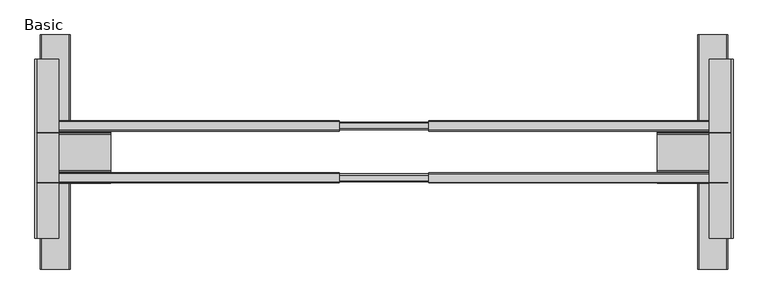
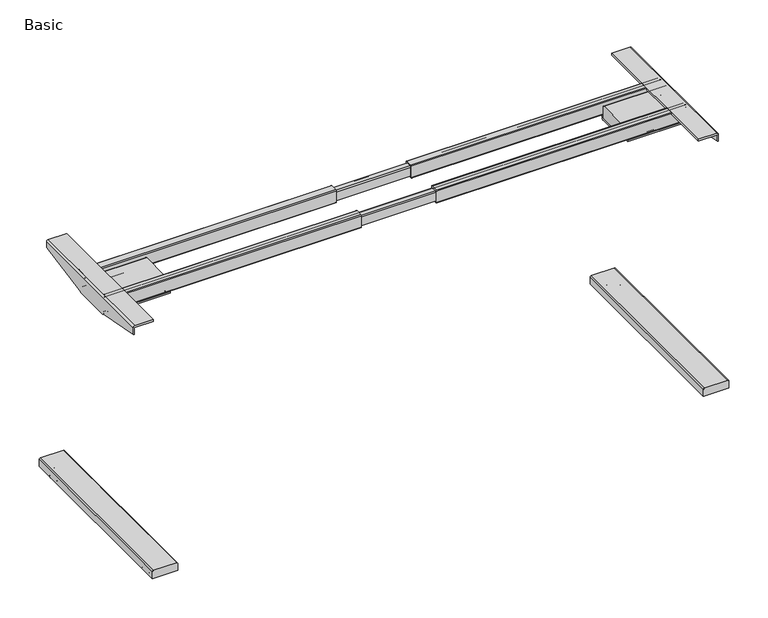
"""IFC4 building model written with IfcOpenShell, lengths in millimetres: furniture geometry, Steelcase Turnstone - Bivi - T Base : Basic."""

from ifc_helpers import new_model, si_unit, point, frame, frame_2d, origin, place, context, project, spatial, polyline, circle_curve, ellipse_curve, trimmed, segment, composite_curve, outline, extrude, source, transform, mapped, element, save
from ifc_brep_helpers import plane_surface, cylinder_surface, revolved_surface, advanced_brep


def basic_b299681c(model_context):
    return source(origin(), model_context, "Body", "SolidModel", [
        advanced_brep(
        [(649.4697971, 171.9471628, 0.0), (649.4697971, 111.031484, 0.0), (649.4697971, 141.4893234, 0.0), (649.4697971, 173.9813657, 2.034203), (649.4697971, 108.997281, 2.034203), (649.4697971, 173.9813657, 5.0424709), (649.4697971, 108.997281, 5.0424709), (649.4697971, 171.9620755, 7.0617612), (649.4697971, 111.0165712, 7.0617612), (649.4697971, 149.0390808, 9.288914), (649.4697971, 133.9395659, 9.288914), (649.4697971, 141.4893234, 9.288914)],
        [
            (0, 1, circle_curve(frame((649.4697971, 141.4893234, 0.0), z_axis=(0.0, 0.0, -1.0), x_axis=(0.0, -1.0, 0.0)), 30.4578394)),
            (1, 2),
            (2, 0),
            (1, 0, circle_curve(frame((649.4697971, 141.4893234, 0.0), z_axis=(0.0, 0.0, -1.0), x_axis=(0.0, -1.0, 0.0)), 30.4578394)),
            (3, 4, circle_curve(frame((649.4697971, 141.4893234, 2.034203), z_axis=(0.0, 0.0, -1.0), x_axis=(0.0, -1.0, 0.0)), 32.4920424)),
            (4, 1, circle_curve(frame((649.4697971, 111.031484, 2.034203), z_axis=(1.0, 0.0, 0.0), x_axis=(0.0, 1.0, 0.0)), 2.034203)),
            (0, 3, circle_curve(frame((649.4697971, 171.9471628, 2.034203), z_axis=(1.0, 0.0, 0.0), x_axis=(0.0, -1.0, 0.0)), 2.034203)),
            (4, 3, circle_curve(frame((649.4697971, 141.4893234, 2.034203), z_axis=(0.0, 0.0, -1.0), x_axis=(0.0, -1.0, 0.0)), 32.4920424)),
            (5, 6, circle_curve(frame((649.4697971, 141.4893234, 5.0424709), z_axis=(0.0, 0.0, -1.0), x_axis=(0.0, -1.0, 0.0)), 32.4920424)),
            (6, 4),
            (3, 5),
            (6, 5, circle_curve(frame((649.4697971, 141.4893234, 5.0424709), z_axis=(0.0, 0.0, -1.0), x_axis=(0.0, -1.0, 0.0)), 32.4920424)),
            (7, 8, circle_curve(frame((649.4697971, 141.4893234, 7.0617612), z_axis=(0.0, 0.0, -1.0), x_axis=(0.0, -1.0, 0.0)), 30.4727521)),
            (8, 6, circle_curve(frame((649.4697971, 111.0165712, 5.0424709), z_axis=(1.0, 0.0, 0.0), x_axis=(0.0, 1.0, 0.0)), 2.0192902)),
            (5, 7, circle_curve(frame((649.4697971, 171.9620755, 5.0424709), z_axis=(1.0, 0.0, 0.0), x_axis=(0.0, -1.0, 0.0)), 2.0192902)),
            (8, 7, circle_curve(frame((649.4697971, 141.4893234, 7.0617612), z_axis=(0.0, 0.0, -1.0), x_axis=(0.0, -1.0, 0.0)), 30.4727521)),
            (9, 10, circle_curve(frame((649.4697971, 141.4893234, 9.288914), z_axis=(0.0, 0.0, -1.0), x_axis=(0.0, -1.0, 0.0)), 7.5497574)),
            (10, 8),
            (7, 9),
            (10, 9, circle_curve(frame((649.4697971, 141.4893234, 9.288914), z_axis=(0.0, 0.0, -1.0), x_axis=(0.0, -1.0, 0.0)), 7.5497574)),
            (11, 10),
            (9, 11),
        ],
        [
            plane_surface(frame((649.4697971, 141.4893234, 0.0), z_axis=(0.0, 0.0, -1.0), x_axis=(0.0, -1.0, 0.0))),
            revolved_surface(trimmed(ellipse_curve(frame((649.4697971, 111.031484, 2.034203), z_axis=(-1.0, 0.0, 0.0), x_axis=(0.0, 1.0, 0.0)), 2.034203, 2.034203), [point((649.4697971, 111.031484, 0.0))], [point((649.4697971, 108.997281, 2.034203))], True, "CARTESIAN"), (649.4697971, 141.4893234, 13.4607192), (0.0, 0.0, 1.0)),
            cylinder_surface(frame((649.4697971, 141.4893234, 13.4607192), z_axis=(0.0, 0.0, 1.0), x_axis=(0.0, -1.0, 0.0)), 32.4920424),
            revolved_surface(trimmed(ellipse_curve(frame((649.4697971, 111.0165712, 5.0424709), z_axis=(-1.0, 0.0, 0.0), x_axis=(0.0, 1.0, 0.0)), 2.0192902, 2.0192902), [point((649.4697971, 108.997281, 5.0424709))], [point((649.4697971, 111.0165712, 7.0617612))], True, "CARTESIAN"), (649.4697971, 141.4893234, 13.4607192), (0.0, 0.0, 1.0)),
            revolved_surface(polyline([(649.4697971, 111.0165712, 7.0617612), (649.4697971, 133.9395659, 9.288914)]), (649.4697971, 141.4893234, 13.4607192), (0.0, 0.0, 1.0)),
            plane_surface(frame((649.4697971, 141.4893234, 9.288914), z_axis=(0.0, 0.0, 1.0), x_axis=(0.0, -1.0, 0.0))),
        ],
        [
            (0, [[1, 2, 3]]),
            (0, [[4, -3, -2]]),
            (1, [[5, 6, -1, 7]]),
            (1, [[8, -7, -4, -6]]),
            (2, [[9, 10, -5, 11]]),
            (2, [[12, -11, -8, -10]]),
            (3, [[13, 14, -9, 15]]),
            (3, [[16, -15, -12, -14]]),
            (4, [[17, 18, -13, 19]]),
            (4, [[20, -19, -16, -18]]),
            (5, [[21, -17, 22]]),
            (5, [[-22, -20, -21]]),
        ],
    ),
        advanced_brep(
        [(-993.9102029, -367.0453334, 0.0), (-993.9102029, -306.1296546, 0.0), (-993.9102029, -336.587494, 0.0), (-993.9102029, -369.0795363, 2.034203), (-993.9102029, -304.0954516, 2.034203), (-993.9102029, -369.0795363, 5.0424709), (-993.9102029, -304.0954516, 5.0424709), (-993.9102029, -367.0602461, 7.0617612), (-993.9102029, -306.1147418, 7.0617612), (-993.9102029, -344.1372514, 9.288914), (-993.9102029, -329.0377365, 9.288914), (-993.9102029, -336.587494, 9.288914)],
        [
            (0, 1, circle_curve(frame((-993.9102029, -336.587494, 0.0), z_axis=(0.0, 0.0, -1.0), x_axis=(0.0, 1.0, 0.0)), 30.4578394)),
            (1, 2),
            (2, 0),
            (1, 0, circle_curve(frame((-993.9102029, -336.587494, 0.0), z_axis=(0.0, 0.0, -1.0), x_axis=(0.0, 1.0, 0.0)), 30.4578394)),
            (3, 4, circle_curve(frame((-993.9102029, -336.587494, 2.034203), z_axis=(0.0, 0.0, -1.0), x_axis=(0.0, 1.0, 0.0)), 32.4920424)),
            (4, 1, circle_curve(frame((-993.9102029, -306.1296546, 2.034203), z_axis=(-1.0, 0.0, 0.0), x_axis=(0.0, 1.0, 0.0)), 2.034203)),
            (0, 3, circle_curve(frame((-993.9102029, -367.0453334, 2.034203), z_axis=(-1.0, 0.0, 0.0), x_axis=(0.0, -1.0, 0.0)), 2.034203)),
            (4, 3, circle_curve(frame((-993.9102029, -336.587494, 2.034203), z_axis=(0.0, 0.0, -1.0), x_axis=(0.0, 1.0, 0.0)), 32.4920424)),
            (5, 6, circle_curve(frame((-993.9102029, -336.587494, 5.0424709), z_axis=(0.0, 0.0, -1.0), x_axis=(0.0, 1.0, 0.0)), 32.4920424)),
            (6, 4),
            (3, 5),
            (6, 5, circle_curve(frame((-993.9102029, -336.587494, 5.0424709), z_axis=(0.0, 0.0, -1.0), x_axis=(0.0, 1.0, 0.0)), 32.4920424)),
            (7, 8, circle_curve(frame((-993.9102029, -336.587494, 7.0617612), z_axis=(0.0, 0.0, -1.0), x_axis=(0.0, 1.0, 0.0)), 30.4727521)),
            (8, 6, circle_curve(frame((-993.9102029, -306.1147418, 5.0424709), z_axis=(-1.0, 0.0, 0.0), x_axis=(0.0, 1.0, 0.0)), 2.0192902)),
            (5, 7, circle_curve(frame((-993.9102029, -367.0602461, 5.0424709), z_axis=(-1.0, 0.0, 0.0), x_axis=(0.0, -1.0, 0.0)), 2.0192902)),
            (8, 7, circle_curve(frame((-993.9102029, -336.587494, 7.0617612), z_axis=(0.0, 0.0, -1.0), x_axis=(0.0, 1.0, 0.0)), 30.4727521)),
            (9, 10, circle_curve(frame((-993.9102029, -336.587494, 9.288914), z_axis=(0.0, 0.0, -1.0), x_axis=(0.0, 1.0, 0.0)), 7.5497574)),
            (10, 8),
            (7, 9),
            (10, 9, circle_curve(frame((-993.9102029, -336.587494, 9.288914), z_axis=(0.0, 0.0, -1.0), x_axis=(0.0, 1.0, 0.0)), 7.5497574)),
            (11, 10),
            (9, 11),
        ],
        [
            plane_surface(frame((-993.9102029, -336.587494, 0.0), z_axis=(0.0, 0.0, -1.0), x_axis=(0.0, 1.0, 0.0))),
            revolved_surface(trimmed(ellipse_curve(frame((-993.9102029, -306.1296546, 2.034203), z_axis=(1.0, 0.0, 0.0), x_axis=(0.0, 1.0, 0.0)), 2.034203, 2.034203), [point((-993.9102029, -306.1296546, 0.0))], [point((-993.9102029, -304.0954516, 2.034203))], True, "CARTESIAN"), (-993.9102029, -336.587494, 13.4607192), (0.0, 0.0, 1.0)),
            cylinder_surface(frame((-993.9102029, -336.587494, 13.4607192), z_axis=(0.0, 0.0, 1.0), x_axis=(0.0, 1.0, 0.0)), 32.4920424),
            revolved_surface(trimmed(ellipse_curve(frame((-993.9102029, -306.1147418, 5.0424709), z_axis=(1.0, 0.0, 0.0), x_axis=(0.0, 1.0, 0.0)), 2.0192902, 2.0192902), [point((-993.9102029, -304.0954516, 5.0424709))], [point((-993.9102029, -306.1147418, 7.0617612))], True, "CARTESIAN"), (-993.9102029, -336.587494, 13.4607192), (0.0, 0.0, 1.0)),
            revolved_surface(polyline([(-993.9102029, -306.1147418, 7.0617612), (-993.9102029, -329.0377365, 9.288914)]), (-993.9102029, -336.587494, 13.4607192), (0.0, 0.0, 1.0)),
            plane_surface(frame((-993.9102029, -336.587494, 9.288914), z_axis=(0.0, 0.0, 1.0), x_axis=(0.0, 1.0, 0.0))),
        ],
        [
            (0, [[1, 2, 3]]),
            (0, [[4, -3, -2]]),
            (1, [[5, 6, -1, 7]]),
            (1, [[8, -7, -4, -6]]),
            (2, [[9, 10, -5, 11]]),
            (2, [[12, -11, -8, -10]]),
            (3, [[13, 14, -9, 15]]),
            (3, [[16, -15, -12, -14]]),
            (4, [[17, 18, -13, 19]]),
            (4, [[20, -19, -16, -18]]),
            (5, [[21, -17, 22]]),
            (5, [[-22, -20, -21]]),
        ],
    ),
        advanced_brep(
        [(696.7274973, -158.2325705, 706.7459466), (699.2411807, -158.2325705, 706.7459466), (699.2411807, -313.1690409, 735.4690634), (696.7274973, -313.1690409, 735.4690634), (696.7274973, -154.5901123, 703.1034885), (699.2411807, -154.5901123, 703.1034885), (696.7274973, -37.2242924, 706.7459466), (699.2411807, -37.2242924, 706.7459466), (699.2411807, -40.8667505, 703.1034885), (696.7274973, -40.8667505, 703.1034885), (696.7274973, 133.8680014, 738.4641336), (699.2411807, 133.8680014, 738.4641336), (699.2411807, -313.1690409, 757.1424174), (693.9835981, -313.1690409, 762.4), (639.5744146, -313.1690409, 762.4), (639.5744146, -313.1690409, 756.3136941), (693.9835981, -313.1690409, 756.3136941), (696.7274973, -313.1690409, 753.5697948), (696.7274973, 133.8680014, 753.5697948), (693.9835981, 133.8680014, 756.3136941), (639.5744146, 133.8680014, 756.3136941), (639.5744146, 133.8680014, 762.4), (693.9835981, 133.8680014, 762.4), (699.2411807, 133.8680014, 757.1424174)],
        [
            (0, 1),
            (1, 2),
            (2, 3),
            (3, 0),
            (0, 4),
            (4, 5),
            (5, 1),
            (6, 7),
            (7, 8),
            (8, 9),
            (9, 6),
            (6, 10),
            (10, 11),
            (11, 7),
            (12, 13, circle_curve(frame((693.9835981, -313.1690409, 757.1424174), z_axis=(0.0, -1.0, 0.0), x_axis=(-1.0, 0.0, 0.0)), 5.2575826)),
            (13, 14),
            (14, 15),
            (15, 16),
            (16, 17, circle_curve(frame((693.9835981, -313.1690409, 753.5697948), z_axis=(0.0, 1.0, 0.0), x_axis=(-1.0, 0.0, 0.0)), 2.7438992)),
            (17, 3),
            (2, 12),
            (18, 19, circle_curve(frame((693.9835981, 133.8680014, 753.5697948), z_axis=(0.0, -1.0, 0.0), x_axis=(-1.0, 0.0, 0.0)), 2.7438992)),
            (19, 20),
            (20, 21),
            (21, 22),
            (22, 23, circle_curve(frame((693.9835981, 133.8680014, 757.1424174), z_axis=(0.0, 1.0, 0.0), x_axis=(-1.0, 0.0, 0.0)), 5.2575826)),
            (23, 11),
            (10, 18),
            (17, 18),
            (9, 4),
            (16, 19),
            (15, 20),
            (14, 21),
            (13, 22),
            (12, 23),
            (5, 8),
        ],
        [
            plane_surface(frame((907.5476074, -158.2325705, 706.7459466), z_axis=(0.0, -0.18228055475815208, -0.983246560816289), x_axis=(-1.0, 0.0, 0.0))),
            plane_surface(frame((907.5476074, -152.8866238, 701.4), z_axis=(0.0, -0.7071067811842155, -0.7071067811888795), x_axis=(-1.0, 0.0, 0.0))),
            plane_surface(frame((907.5476074, -37.2242924, 706.7459466), z_axis=(0.0, 0.707106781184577, -0.7071067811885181), x_axis=(-1.0, 0.0, 0.0))),
            plane_surface(frame((907.5476074, 190.3320215, 748.9317958), z_axis=(0.0, 0.18228055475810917, -0.983246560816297), x_axis=(-1.0, 0.0, 0.0))),
            plane_surface(frame((699.2411807, -313.1690409, 703.1034885), z_axis=(0.0, -1.0, 0.0), x_axis=(1.0, 0.0, 0.0))),
            plane_surface(frame((699.2411807, 133.8680014, 703.1034885), z_axis=(0.0, 1.0, 0.0), x_axis=(-1.0, 0.0, 0.0))),
            plane_surface(frame((696.7274973, -313.1690409, 753.5697948), z_axis=(-1.0, 0.0, 0.0), x_axis=(0.0, 1.0, 0.0))),
            revolved_surface(polyline([(691.2396989, 133.8680014, 753.5697948), (691.2396989, -313.1690409, 753.5697948)]), (693.9835981, 133.8680014, 753.5697948), (0.0, 1.0, 0.0)),
            plane_surface(frame((639.5744146, -313.1690409, 756.3136941), z_axis=(1.5772561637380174e-12, 0.0, -1.0), x_axis=(0.0, 1.0, 0.0))),
            plane_surface(frame((639.5744146, -313.1690409, 762.4), z_axis=(-1.0, 0.0, 0.0), x_axis=(0.0, 1.0, 0.0))),
            plane_surface(frame((693.9835981, -313.1690409, 762.4), z_axis=(0.0, 0.0, 1.0), x_axis=(0.0, 1.0, 0.0))),
            cylinder_surface(frame((693.9835981, 133.8680014, 757.1424174), z_axis=(0.0, -1.0, 0.0), x_axis=(-1.0, 0.0, 0.0)), 5.2575826),
            plane_surface(frame((699.2411807, -313.1690409, 703.1034885), z_axis=(1.0, 0.0, 0.0), x_axis=(0.0, 1.0, 0.0))),
            plane_surface(frame((696.7274973, -313.1690409, 703.1034885), z_axis=(0.0, 0.0, -1.0), x_axis=(0.0, 1.0, 0.0))),
        ],
        [
            (0, [[1, 2, 3, 4]]),
            (1, [[-1, 5, 6, 7]]),
            (2, [[8, 9, 10, 11]]),
            (3, [[-8, 12, 13, 14]]),
            (4, [[15, 16, 17, 18, 19, 20, -3, 21]]),
            (5, [[22, 23, 24, 25, 26, 27, -13, 28]]),
            (6, [[29, -28, -12, -11, 30, -5, -4, -20]]),
            (7, [[-19, 31, -22, -29]]),
            (8, [[-18, 32, -23, -31]]),
            (9, [[-17, 33, -24, -32]]),
            (10, [[-16, 34, -25, -33]]),
            (11, [[-15, 35, -26, -34]]),
            (12, [[-35, -21, -2, -7, 36, -9, -14, -27]]),
            (13, [[-36, -6, -30, -10]]),
        ],
    ),
        advanced_brep(
        [(-1041.1231206, -313.1690409, 753.5697948), (-1038.3792213, -313.1690409, 756.3136941), (-983.7419689, -313.1690409, 756.3136941), (-983.7419689, -313.1690409, 762.4), (-1038.1645206, -313.1690409, 762.4), (-1043.4221032, -313.1690409, 757.1424174), (-1043.4221032, -313.1690409, 735.4690634), (-1041.1231206, -313.1690409, 735.4690634), (-1043.4221032, 133.8680014, 757.1424174), (-1038.1645206, 133.8680014, 762.4), (-983.7419689, 133.8680014, 762.4), (-983.7419689, 133.8680014, 756.3136941), (-1038.3792213, 133.8680014, 756.3136941), (-1041.1231206, 133.8680014, 753.5697948), (-1041.1231206, 133.8680014, 738.4641336), (-1043.4221032, 133.8680014, 738.4641336), (-1041.1231206, -158.2325705, 706.7459466), (-1041.1231206, -154.5901123, 703.1034885), (-1041.1231206, -40.8667505, 703.1034885), (-1041.1231206, -37.2242924, 706.7459466), (-1043.4221032, -37.2242924, 706.7459466), (-1043.4221032, -40.8667505, 703.1034885), (-1043.4221032, -154.5901123, 703.1034885), (-1043.4221032, -158.2325705, 706.7459466)],
        [
            (0, 1, circle_curve(frame((-1038.3792213, -313.1690409, 753.5697948), z_axis=(0.0, 1.0, 0.0), x_axis=(1.0, 0.0, 0.0)), 2.7438992)),
            (1, 2),
            (2, 3),
            (3, 4),
            (4, 5, circle_curve(frame((-1038.1645206, -313.1690409, 757.1424174), z_axis=(0.0, -1.0, 0.0), x_axis=(1.0, 0.0, 0.0)), 5.2575826)),
            (5, 6),
            (6, 7),
            (7, 0),
            (8, 9, circle_curve(frame((-1038.1645206, 133.8680014, 757.1424174), z_axis=(0.0, 1.0, 0.0), x_axis=(1.0, 0.0, 0.0)), 5.2575826)),
            (9, 10),
            (10, 11),
            (11, 12),
            (12, 13, circle_curve(frame((-1038.3792213, 133.8680014, 753.5697948), z_axis=(0.0, -1.0, 0.0), x_axis=(1.0, 0.0, 0.0)), 2.7438992)),
            (13, 14),
            (14, 15),
            (15, 8),
            (13, 0),
            (7, 16),
            (16, 17),
            (17, 18),
            (18, 19),
            (19, 14),
            (12, 1),
            (11, 2),
            (10, 3),
            (9, 4),
            (8, 5),
            (15, 20),
            (20, 21),
            (21, 22),
            (22, 23),
            (23, 6),
            (17, 22),
            (21, 18),
            (23, 16),
            (20, 19),
        ],
        [
            plane_surface(frame((-1041.1231206, -313.1690409, 753.5697948), z_axis=(0.0, -1.0, 0.0), x_axis=(0.0, 0.0, 1.0))),
            plane_surface(frame((-1041.1231206, 133.8680014, 753.5697948), z_axis=(0.0, 1.0, 0.0), x_axis=(0.0, 0.0, -1.0))),
            plane_surface(frame((-1041.1231206, -313.1690409, 703.1034885), z_axis=(1.0, 0.0, 0.0), x_axis=(0.0, 1.0, 0.0))),
            revolved_surface(polyline([(-1035.6353221, 133.8680014, 753.5697948), (-1035.6353221, -313.1690409, 753.5697948)]), (-1038.3792213, 133.8680014, 753.5697948), (0.0, 1.0, 0.0)),
            plane_surface(frame((-1038.3792213, -313.1690409, 756.3136941), z_axis=(0.0, 0.0, -1.0), x_axis=(0.0, 1.0, 0.0))),
            plane_surface(frame((-983.7419689, -313.1690409, 756.3136941), z_axis=(1.0, 0.0, 0.0), x_axis=(0.0, 1.0, 0.0))),
            plane_surface(frame((-983.7419689, -313.1690409, 762.4), z_axis=(0.0, 0.0, 1.0), x_axis=(0.0, 1.0, 0.0))),
            cylinder_surface(frame((-1038.1645206, 133.8680014, 757.1424174), z_axis=(0.0, -1.0, 0.0), x_axis=(1.0, 0.0, 0.0)), 5.2575826),
            plane_surface(frame((-1043.4221032, -313.1690409, 757.1424174), z_axis=(-1.0, 0.0, 0.0), x_axis=(0.0, 1.0, 0.0))),
            plane_surface(frame((-1043.4221032, -313.1690409, 703.1034885), z_axis=(0.0, 0.0, -1.0), x_axis=(0.0, 1.0, 0.0))),
            plane_surface(frame((-1129.545801, -385.7888843, 748.9317958), z_axis=(0.0, -0.18228055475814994, -0.9832465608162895), x_axis=(1.0, 0.0, 0.0))),
            plane_surface(frame((-1129.545801, -158.2325705, 706.7459466), z_axis=(0.0, -0.7071067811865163, -0.7071067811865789), x_axis=(1.0, 0.0, 0.0))),
            plane_surface(frame((-1129.545801, -42.570239, 701.4), z_axis=(0.0, 0.7071067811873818, -0.7071067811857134), x_axis=(1.0, 0.0, 0.0))),
            plane_surface(frame((-1129.545801, -37.2242924, 706.7459466), z_axis=(0.0, 0.1822805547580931, -0.9832465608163), x_axis=(1.0, 0.0, 0.0))),
        ],
        [
            (0, [[1, 2, 3, 4, 5, 6, 7, 8]]),
            (1, [[9, 10, 11, 12, 13, 14, 15, 16]]),
            (2, [[17, -8, 18, 19, 20, 21, 22, -14]]),
            (3, [[-1, -17, -13, 23]]),
            (4, [[-2, -23, -12, 24]]),
            (5, [[-3, -24, -11, 25]]),
            (6, [[-4, -25, -10, 26]]),
            (7, [[-5, -26, -9, 27]]),
            (8, [[-27, -16, 28, 29, 30, 31, 32, -6]]),
            (9, [[-20, 33, -30, 34]]),
            (10, [[35, -18, -7, -32]]),
            (11, [[-35, -31, -33, -19]]),
            (12, [[36, -21, -34, -29]]),
            (13, [[-36, -28, -15, -22]]),
        ],
    ),
        extrude(outline(composite_curve([segment(polyline([(7.9650038, 611.0637802), (7.9650038, 686.1381849), (30.0204767, 686.1381849)]), True, "CONTINUOUS"), segment(trimmed(circle_curve(frame_2d((30.0204767, 683.1575777)), 2.9806072), [point((30.0204767, 686.1381849))], [point((33.0010839, 683.1575777))], False, "CARTESIAN"), True, "CONTINUOUS"), segment(polyline([(33.0010839, 683.1575777), (33.0010839, 614.2342027)]), True, "CONTINUOUS"), segment(trimmed(circle_curve(frame_2d((29.8306613, 614.2342027)), 3.1704226), [point((33.0010839, 614.2342027))], [point((29.8306613, 611.0637802))], False, "CARTESIAN"), True, "CONTINUOUS"), segment(polyline([(29.8306613, 611.0637802), (7.9650038, 611.0637802)]), True, "CONTINUOUS")], self_intersect=False)), frame((0.0, -389.6490853, 0.0), z_axis=(0.0, 1.0, 0.0), x_axis=(0.0, 0.0, 1.0)), (0.0, 0.0, 1.0), 584.2),
        extrude(outline(composite_curve([segment(polyline([(7.9650038, -955.504186), (29.8306613, -955.504186)]), True, "CONTINUOUS"), segment(trimmed(circle_curve(frame_2d((29.8306613, -958.6746086)), 3.1704226), [point((29.8306613, -955.504186))], [point((33.0010839, -958.6746086))], False, "CARTESIAN"), True, "CONTINUOUS"), segment(polyline([(33.0010839, -958.6746086), (33.0010839, -1027.5979836)]), True, "CONTINUOUS"), segment(trimmed(circle_curve(frame_2d((30.0204767, -1027.5979836)), 2.9806072), [point((33.0010839, -1027.5979836))], [point((30.0204767, -1030.5785908))], False, "CARTESIAN"), True, "CONTINUOUS"), segment(polyline([(30.0204767, -1030.5785908), (7.9650038, -1030.5785908), (7.9650038, -955.504186)]), True, "CONTINUOUS")], self_intersect=False)), frame((0.0, -389.6490853, 0.0), z_axis=(0.0, 1.0, 0.0), x_axis=(0.0, 0.0, 1.0)), (0.0, 0.0, 1.0), 584.2),
        extrude(outline(composite_curve([segment(trimmed(circle_curve(frame_2d((-22.6846088, 724.4247064)), 2.54), [point((-20.1446088, 724.4247064))], [point((-22.6846088, 721.8847064))], False, "CARTESIAN"), True, "CONTINUOUS"), segment(polyline([(-22.6846088, 721.8847064), (-43.0735084, 721.8847064)]), True, "CONTINUOUS"), segment(trimmed(circle_curve(frame_2d((-43.0735084, 724.3558068)), 2.4711004), [point((-43.0735084, 721.8847064))], [point((-45.5446088, 724.3558068))], False, "CARTESIAN"), True, "CONTINUOUS"), segment(polyline([(-45.5446088, 724.3558068), (-45.5446088, 759.897389)]), True, "CONTINUOUS"), segment(trimmed(circle_curve(frame_2d((-43.0419978, 759.897389)), 2.502611), [point((-45.5446088, 759.897389))], [point((-43.0419978, 762.4))], False, "CARTESIAN"), True, "CONTINUOUS"), segment(polyline([(-43.0419978, 762.4), (-22.5036523, 762.4)]), True, "CONTINUOUS"), segment(trimmed(circle_curve(frame_2d((-22.5036523, 760.0409564)), 2.3590436), [point((-22.5036523, 762.4))], [point((-20.1446088, 760.0409564))], False, "CARTESIAN"), True, "CONTINUOUS"), segment(polyline([(-20.1446088, 760.0409564), (-20.1446088, 724.4247064)]), True, "CONTINUOUS")], self_intersect=False)), frame((-60.4602029, 0.0, 0.0), z_axis=(1.0, 0.0, 0.0), x_axis=(0.0, 1.0, 0.0)), (0.0, 0.0, 1.0), 746.5983879),
        extrude(outline(composite_curve([segment(polyline([(-175.0303912, 724.4247064), (-175.0303912, 760.0409564)]), True, "CONTINUOUS"), segment(trimmed(circle_curve(frame_2d((-172.6713476, 760.0409564)), 2.3590436), [point((-175.0303912, 760.0409564))], [point((-172.6713476, 762.4))], False, "CARTESIAN"), True, "CONTINUOUS"), segment(polyline([(-172.6713476, 762.4), (-152.1330021, 762.4)]), True, "CONTINUOUS"), segment(trimmed(circle_curve(frame_2d((-152.1330021, 759.897389)), 2.502611), [point((-152.1330021, 762.4))], [point((-149.6303912, 759.897389))], False, "CARTESIAN"), True, "CONTINUOUS"), segment(polyline([(-149.6303912, 759.897389), (-149.6303912, 724.3558068)]), True, "CONTINUOUS"), segment(trimmed(circle_curve(frame_2d((-152.1014916, 724.3558068)), 2.4711004), [point((-149.6303912, 724.3558068))], [point((-152.1014916, 721.8847064))], False, "CARTESIAN"), True, "CONTINUOUS"), segment(polyline([(-152.1014916, 721.8847064), (-172.4903912, 721.8847064)]), True, "CONTINUOUS"), segment(trimmed(circle_curve(frame_2d((-172.4903912, 724.4247064)), 2.54), [point((-172.4903912, 721.8847064))], [point((-175.0303912, 724.4247064))], False, "CARTESIAN"), True, "CONTINUOUS")], self_intersect=False)), frame((-60.4602029, 0.0, 0.0), z_axis=(1.0, 0.0, 0.0), x_axis=(0.0, 1.0, 0.0)), (0.0, 0.0, 1.0), 746.5983879),
        extrude(outline(composite_curve([segment(polyline([(-41.1510404, 716.7696117), (-42.2051171, 711.022656)]), True, "CONTINUOUS"), segment(trimmed(circle_curve(frame_2d((-47.3092607, 711.9588315)), 5.1892877), [point((-42.2051171, 711.022656))], [point((-47.3092607, 706.7695438))], False, "CARTESIAN"), True, "CONTINUOUS"), segment(polyline([(-47.3092607, 706.7695438), (-148.1476021, 706.7695438)]), True, "CONTINUOUS"), segment(trimmed(circle_curve(frame_2d((-148.1476021, 711.9588315)), 5.1892877), [point((-148.1476021, 706.7695438))], [point((-153.2517457, 711.022656))], False, "CARTESIAN"), True, "CONTINUOUS"), segment(polyline([(-153.2517457, 711.022656), (-154.3058224, 716.7696117), (-175.3056356, 716.7696117), (-175.3056356, 721.8847064), (-154.8075486, 721.8847064)]), True, "CONTINUOUS"), segment(trimmed(circle_curve(frame_2d((-154.8075486, 716.3079909)), 5.5767155), [point((-154.8075486, 721.8847064))], [point((-149.3222025, 717.3133434))], False, "CARTESIAN"), True, "CONTINUOUS"), segment(polyline([(-149.3222025, 717.3133434), (-148.3061517, 711.7696262), (-47.7075617, 711.7696262), (-46.6915109, 717.3133434)]), True, "CONTINUOUS"), segment(trimmed(circle_curve(frame_2d((-41.2061648, 716.3079909)), 5.5767155), [point((-46.6915109, 717.3133434))], [point((-41.2061648, 721.8847064))], False, "CARTESIAN"), True, "CONTINUOUS"), segment(polyline([(-41.2061648, 721.8847064), (-20.3067633, 721.8847064), (-20.3067633, 716.7696117), (-41.1510404, 716.7696117)]), True, "CONTINUOUS")], self_intersect=False)), frame((509.3531648, 0.0, 0.0), z_axis=(1.0, 0.0, 0.0), x_axis=(0.0, 1.0, 0.0)), (0.0, 0.0, 1.0), 184.6304333),
        extrude(outline(composite_curve([segment(polyline([(-49.146017, 750.0927128), (-47.8070711, 711.7696262), (-147.8056669, 711.7696262), (-146.4667677, 750.0927082)]), True, "CONTINUOUS"), segment(trimmed(circle_curve(frame_2d((-142.6590908, 749.9596788)), 3.81), [point((-146.4667677, 750.0927082))], [point((-142.6590908, 753.7696788))], False, "CARTESIAN"), True, "CONTINUOUS"), segment(polyline([(-142.6590908, 753.7696788), (-52.9536937, 753.7696788)]), True, "CONTINUOUS"), segment(trimmed(circle_curve(frame_2d((-52.9536937, 749.9596788)), 3.81), [point((-52.9536937, 753.7696788))], [point((-49.146017, 750.0927128))], False, "CARTESIAN"), True, "CONTINUOUS")], self_intersect=False)), frame((509.3531648, 0.0, 0.0), z_axis=(1.0, 0.0, 0.0), x_axis=(0.0, 1.0, 0.0)), (0.0, 0.0, 1.0), 184.6304333),
        extrude(outline(composite_curve([segment(polyline([(-49.146017, 750.0927128), (-47.8070711, 711.7696262), (-147.8056669, 711.7696262), (-146.4667677, 750.0927082)]), True, "CONTINUOUS"), segment(trimmed(circle_curve(frame_2d((-142.6590908, 749.9596788)), 3.81), [point((-146.4667677, 750.0927082))], [point((-142.6590908, 753.7696788))], False, "CARTESIAN"), True, "CONTINUOUS"), segment(polyline([(-142.6590908, 753.7696788), (-52.9536937, 753.7696788)]), True, "CONTINUOUS"), segment(trimmed(circle_curve(frame_2d((-52.9536937, 749.9596788)), 3.81), [point((-52.9536937, 753.7696788))], [point((-49.146017, 750.0927128))], False, "CARTESIAN"), True, "CONTINUOUS")], self_intersect=False)), frame((-1038.424004, 0.0, 0.0), z_axis=(1.0, 0.0, 0.0), x_axis=(0.0, 1.0, 0.0)), (0.0, 0.0, 1.0), 184.6304333),
        extrude(outline(composite_curve([segment(trimmed(circle_curve(frame_2d((-22.6461941, 724.4247064)), 2.54), [point((-20.1061941, 724.4247064))], [point((-22.6461941, 721.8847064))], False, "CARTESIAN"), True, "CONTINUOUS"), segment(polyline([(-22.6461941, 721.8847064), (-43.0350937, 721.8847064)]), True, "CONTINUOUS"), segment(trimmed(circle_curve(frame_2d((-43.0350937, 724.3558068)), 2.4711004), [point((-43.0350937, 721.8847064))], [point((-45.5061941, 724.3558068))], False, "CARTESIAN"), True, "CONTINUOUS"), segment(polyline([(-45.5061941, 724.3558068), (-45.5061941, 759.897389)]), True, "CONTINUOUS"), segment(trimmed(circle_curve(frame_2d((-43.0035831, 759.897389)), 2.502611), [point((-45.5061941, 759.897389))], [point((-43.0035831, 762.4))], False, "CARTESIAN"), True, "CONTINUOUS"), segment(polyline([(-43.0035831, 762.4), (-22.4652377, 762.4)]), True, "CONTINUOUS"), segment(trimmed(circle_curve(frame_2d((-22.4652377, 760.0409564)), 2.3590436), [point((-22.4652377, 762.4))], [point((-20.1061941, 760.0409564))], False, "CARTESIAN"), True, "CONTINUOUS"), segment(polyline([(-20.1061941, 760.0409564), (-20.1061941, 724.4247064)]), True, "CONTINUOUS")], self_intersect=False)), frame((-1038.424004, 0.0, 0.0), z_axis=(1.0, 0.0, 0.0), x_axis=(0.0, 1.0, 0.0)), (0.0, 0.0, 1.0), 754.443801),
        extrude(outline(composite_curve([segment(polyline([(-174.9919765, 724.4247064), (-174.9919765, 760.0409564)]), True, "CONTINUOUS"), segment(trimmed(circle_curve(frame_2d((-172.6329329, 760.0409564)), 2.3590436), [point((-174.9919765, 760.0409564))], [point((-172.6329329, 762.4))], False, "CARTESIAN"), True, "CONTINUOUS"), segment(polyline([(-172.6329329, 762.4), (-152.0945875, 762.4)]), True, "CONTINUOUS"), segment(trimmed(circle_curve(frame_2d((-152.0945875, 759.897389)), 2.502611), [point((-152.0945875, 762.4))], [point((-149.5919765, 759.897389))], False, "CARTESIAN"), True, "CONTINUOUS"), segment(polyline([(-149.5919765, 759.897389), (-149.5919765, 724.3558068)]), True, "CONTINUOUS"), segment(trimmed(circle_curve(frame_2d((-152.0630769, 724.3558068)), 2.4711004), [point((-149.5919765, 724.3558068))], [point((-152.0630769, 721.8847064))], False, "CARTESIAN"), True, "CONTINUOUS"), segment(polyline([(-152.0630769, 721.8847064), (-172.4519765, 721.8847064)]), True, "CONTINUOUS"), segment(trimmed(circle_curve(frame_2d((-172.4519765, 724.4247064)), 2.54), [point((-172.4519765, 721.8847064))], [point((-174.9919765, 724.4247064))], False, "CARTESIAN"), True, "CONTINUOUS")], self_intersect=False)), frame((-1038.424004, 0.0, 0.0), z_axis=(1.0, 0.0, 0.0), x_axis=(0.0, 1.0, 0.0)), (0.0, 0.0, 1.0), 754.443801),
        extrude(outline(composite_curve([segment(polyline([(-25.1062849, 727.2695037), (-25.1062849, 755.3113189)]), True, "CONTINUOUS"), segment(trimmed(circle_curve(frame_2d((-25.6644682, 755.3113189)), 0.5581833), [point((-25.1062849, 755.3113189))], [point((-25.6644682, 755.8695022))], True, "CARTESIAN"), True, "CONTINUOUS"), segment(polyline([(-25.6644682, 755.8695022), (-39.9437245, 755.8695022)]), True, "CONTINUOUS"), segment(trimmed(circle_curve(frame_2d((-39.9437245, 755.3073353)), 0.5621669), [point((-39.9437245, 755.8695022))], [point((-40.5058914, 755.3073353))], True, "CARTESIAN"), True, "CONTINUOUS"), segment(polyline([(-40.5058914, 755.3073353), (-40.5058914, 727.2695037), (-42.5060407, 727.2695037), (-42.5060407, 754.6257358)]), True, "CONTINUOUS"), segment(trimmed(circle_curve(frame_2d((-39.2622994, 754.6257358)), 3.2437412), [point((-42.5060407, 754.6257358))], [point((-39.2622994, 757.869477))], False, "CARTESIAN"), True, "CONTINUOUS"), segment(polyline([(-39.2622994, 757.869477), (-26.0748444, 757.869477)]), True, "CONTINUOUS"), segment(trimmed(circle_curve(frame_2d((-26.0748444, 754.9010338)), 2.9684433), [point((-26.0748444, 757.869477))], [point((-23.1064012, 754.9010338))], False, "CARTESIAN"), True, "CONTINUOUS"), segment(polyline([(-23.1064012, 754.9010338), (-23.1064012, 727.2695037), (-25.1062849, 727.2695037)]), True, "CONTINUOUS")], self_intersect=False)), frame((-1038.424004, 0.0, 0.0), z_axis=(1.0, 0.0, 0.0), x_axis=(0.0, 1.0, 0.0)), (0.0, 0.0, 1.0), 1732.4076021),
        extrude(outline(composite_curve([segment(polyline([(-169.9918857, 727.2695037), (-171.9917694, 727.2695037), (-171.9917694, 754.9010338)]), True, "CONTINUOUS"), segment(trimmed(circle_curve(frame_2d((-169.0233262, 754.9010338)), 2.9684433), [point((-171.9917694, 754.9010338))], [point((-169.0233262, 757.869477))], False, "CARTESIAN"), True, "CONTINUOUS"), segment(polyline([(-169.0233262, 757.869477), (-155.8358712, 757.869477)]), True, "CONTINUOUS"), segment(trimmed(circle_curve(frame_2d((-155.8358712, 754.6257358)), 3.2437412), [point((-155.8358712, 757.869477))], [point((-152.5921299, 754.6257358))], False, "CARTESIAN"), True, "CONTINUOUS"), segment(polyline([(-152.5921299, 754.6257358), (-152.5921299, 727.2695037), (-154.5922792, 727.2695037), (-154.5922792, 755.3073353)]), True, "CONTINUOUS"), segment(trimmed(circle_curve(frame_2d((-155.1544461, 755.3073353)), 0.5621669), [point((-154.5922792, 755.3073353))], [point((-155.1544461, 755.8695022))], True, "CARTESIAN"), True, "CONTINUOUS"), segment(polyline([(-155.1544461, 755.8695022), (-169.4337024, 755.8695022)]), True, "CONTINUOUS"), segment(trimmed(circle_curve(frame_2d((-169.4337024, 755.3113189)), 0.5581833), [point((-169.4337024, 755.8695022))], [point((-169.9918857, 755.3113189))], True, "CARTESIAN"), True, "CONTINUOUS"), segment(polyline([(-169.9918857, 755.3113189), (-169.9918857, 727.2695037)]), True, "CONTINUOUS")], self_intersect=False)), frame((-1038.424004, 0.0, 0.0), z_axis=(1.0, 0.0, 0.0), x_axis=(0.0, 1.0, 0.0)), (0.0, 0.0, 1.0), 1732.4076021),
        advanced_brep(
        [(-993.9102029, 141.4893234, 0.0), (-993.9102029, 111.031484, 0.0), (-993.9102029, 171.9471628, 0.0), (-993.9102029, 108.997281, 2.034203), (-993.9102029, 173.9813657, 2.034203), (-993.9102029, 108.997281, 5.0424709), (-993.9102029, 173.9813657, 5.0424709), (-993.9102029, 111.0165712, 7.0617612), (-993.9102029, 171.9620755, 7.0617612), (-993.9102029, 133.9395659, 9.288914), (-993.9102029, 149.0390808, 9.288914), (-993.9102029, 141.4893234, 9.288914)],
        [
            (0, 1),
            (1, 2, circle_curve(frame((-993.9102029, 141.4893234, 0.0), z_axis=(0.0, 0.0, -1.0), x_axis=(0.0, -1.0, 0.0)), 30.4578394)),
            (2, 0),
            (2, 1, circle_curve(frame((-993.9102029, 141.4893234, 0.0), z_axis=(0.0, 0.0, -1.0), x_axis=(0.0, -1.0, 0.0)), 30.4578394)),
            (1, 3, circle_curve(frame((-993.9102029, 111.031484, 2.034203), z_axis=(-1.0, 0.0, 0.0), x_axis=(0.0, -1.0, 0.0)), 2.034203)),
            (3, 4, circle_curve(frame((-993.9102029, 141.4893234, 2.034203), z_axis=(0.0, 0.0, -1.0), x_axis=(0.0, -1.0, 0.0)), 32.4920424)),
            (4, 2, circle_curve(frame((-993.9102029, 171.9471628, 2.034203), z_axis=(-1.0, 0.0, 0.0), x_axis=(0.0, 1.0, 0.0)), 2.034203)),
            (4, 3, circle_curve(frame((-993.9102029, 141.4893234, 2.034203), z_axis=(0.0, 0.0, -1.0), x_axis=(0.0, -1.0, 0.0)), 32.4920424)),
            (3, 5),
            (5, 6, circle_curve(frame((-993.9102029, 141.4893234, 5.0424709), z_axis=(0.0, 0.0, -1.0), x_axis=(0.0, -1.0, 0.0)), 32.4920424)),
            (6, 4),
            (6, 5, circle_curve(frame((-993.9102029, 141.4893234, 5.0424709), z_axis=(0.0, 0.0, -1.0), x_axis=(0.0, -1.0, 0.0)), 32.4920424)),
            (5, 7, circle_curve(frame((-993.9102029, 111.0165712, 5.0424709), z_axis=(-1.0, 0.0, 0.0), x_axis=(0.0, -1.0, 0.0)), 2.0192902)),
            (7, 8, circle_curve(frame((-993.9102029, 141.4893234, 7.0617612), z_axis=(0.0, 0.0, -1.0), x_axis=(0.0, -1.0, 0.0)), 30.4727521)),
            (8, 6, circle_curve(frame((-993.9102029, 171.9620755, 5.0424709), z_axis=(-1.0, 0.0, 0.0), x_axis=(0.0, 1.0, 0.0)), 2.0192902)),
            (8, 7, circle_curve(frame((-993.9102029, 141.4893234, 7.0617612), z_axis=(0.0, 0.0, -1.0), x_axis=(0.0, -1.0, 0.0)), 30.4727521)),
            (7, 9),
            (9, 10, circle_curve(frame((-993.9102029, 141.4893234, 9.288914), z_axis=(0.0, 0.0, -1.0), x_axis=(0.0, -1.0, 0.0)), 7.5497574)),
            (10, 8),
            (10, 9, circle_curve(frame((-993.9102029, 141.4893234, 9.288914), z_axis=(0.0, 0.0, -1.0), x_axis=(0.0, -1.0, 0.0)), 7.5497574)),
            (9, 11),
            (11, 10),
        ],
        [
            plane_surface(frame((-993.9102029, 141.4893234, 0.0), z_axis=(0.0, 0.0, -1.0), x_axis=(0.0, -1.0, 0.0))),
            revolved_surface(trimmed(ellipse_curve(frame((-993.9102029, 111.031484, 2.034203), z_axis=(1.0, 0.0, 0.0), x_axis=(0.0, -1.0, 0.0)), 2.034203, 2.034203), [point((-993.9102029, 108.997281, 2.034203))], [point((-993.9102029, 111.031484, 0.0))], True, "CARTESIAN"), (-993.9102029, 141.4893234, 13.4607192), (0.0, 0.0, -1.0)),
            cylinder_surface(frame((-993.9102029, 141.4893234, 13.4607192), z_axis=(0.0, 0.0, -1.0), x_axis=(0.0, -1.0, 0.0)), 32.4920424),
            revolved_surface(trimmed(ellipse_curve(frame((-993.9102029, 111.0165712, 5.0424709), z_axis=(1.0, 0.0, 0.0), x_axis=(0.0, -1.0, 0.0)), 2.0192902, 2.0192902), [point((-993.9102029, 111.0165712, 7.0617612))], [point((-993.9102029, 108.997281, 5.0424709))], True, "CARTESIAN"), (-993.9102029, 141.4893234, 13.4607192), (0.0, 0.0, -1.0)),
            revolved_surface(polyline([(-993.9102029, 133.9395659, 9.288914), (-993.9102029, 111.0165712, 7.0617612)]), (-993.9102029, 141.4893234, 13.4607192), (0.0, 0.0, -1.0)),
            plane_surface(frame((-993.9102029, 141.4893234, 9.288914), z_axis=(0.0, 0.0, 1.0), x_axis=(0.0, -1.0, 0.0))),
        ],
        [
            (0, [[1, 2, 3]]),
            (0, [[-3, 4, -1]]),
            (1, [[-2, 5, 6, 7]]),
            (1, [[-4, -7, 8, -5]]),
            (2, [[-6, 9, 10, 11]]),
            (2, [[-8, -11, 12, -9]]),
            (3, [[-10, 13, 14, 15]]),
            (3, [[-12, -15, 16, -13]]),
            (4, [[-14, 17, 18, 19]]),
            (4, [[-16, -19, 20, -17]]),
            (5, [[-18, 21, 22]]),
            (5, [[-20, -22, -21]]),
        ],
    ),
        extrude(outline(composite_curve([segment(polyline([(-41.1510404, 716.7696117), (-42.2051171, 711.022656)]), True, "CONTINUOUS"), segment(trimmed(circle_curve(frame_2d((-47.3092607, 711.9588315)), 5.1892877), [point((-42.2051171, 711.022656))], [point((-47.3092607, 706.7695438))], False, "CARTESIAN"), True, "CONTINUOUS"), segment(polyline([(-47.3092607, 706.7695438), (-148.1476021, 706.7695438)]), True, "CONTINUOUS"), segment(trimmed(circle_curve(frame_2d((-148.1476021, 711.9588315)), 5.1892877), [point((-148.1476021, 706.7695438))], [point((-153.2517457, 711.022656))], False, "CARTESIAN"), True, "CONTINUOUS"), segment(polyline([(-153.2517457, 711.022656), (-154.3058224, 716.7696117), (-175.3056356, 716.7696117), (-175.3056356, 721.8847064), (-154.8075486, 721.8847064)]), True, "CONTINUOUS"), segment(trimmed(circle_curve(frame_2d((-154.8075486, 716.3079909)), 5.5767155), [point((-154.8075486, 721.8847064))], [point((-149.3222025, 717.3133434))], False, "CARTESIAN"), True, "CONTINUOUS"), segment(polyline([(-149.3222025, 717.3133434), (-148.3061517, 711.7696262), (-47.7075617, 711.7696262), (-46.6915109, 717.3133434)]), True, "CONTINUOUS"), segment(trimmed(circle_curve(frame_2d((-41.2061648, 716.3079909)), 5.5767155), [point((-46.6915109, 717.3133434))], [point((-41.2061648, 721.8847064))], False, "CARTESIAN"), True, "CONTINUOUS"), segment(polyline([(-41.2061648, 721.8847064), (-20.3067633, 721.8847064), (-20.3067633, 716.7696117), (-41.1510404, 716.7696117)]), True, "CONTINUOUS")], self_intersect=False)), frame((-1038.424004, 0.0, 0.0), z_axis=(1.0, 0.0, 0.0), x_axis=(0.0, 1.0, 0.0)), (0.0, 0.0, 1.0), 184.6304333),
    ])


if __name__ == "__main__":
    model = new_model("IFC4")
    model_context = context("Model", 3, world=origin())
    ifc_project = project(units=[si_unit("LENGTHUNIT", "METRE", prefix="MILLI")], contexts=[model_context])
    site = spatial("IfcSite", under=ifc_project)
    building = spatial("IfcBuilding", under=site)
    placement = place(None, origin())
    basic_shape = basic_b299681c(model_context)
    element("IfcFurniture", 1, ObjectType="Steelcase Turnstone - Bivi - T Base : Basic", at=placement, inside=building, context=model_context, shape_type="MappedRepresentation", body=[
        mapped(basic_shape, transform((0.0, 0.0, 0.0), x_axis=(1.0, 0.0, 0.0), y_axis=(0.0, 1.0, 0.0), z_axis=(0.0, 0.0, 1.0))),
    ])
    save(model, "model.ifc")
